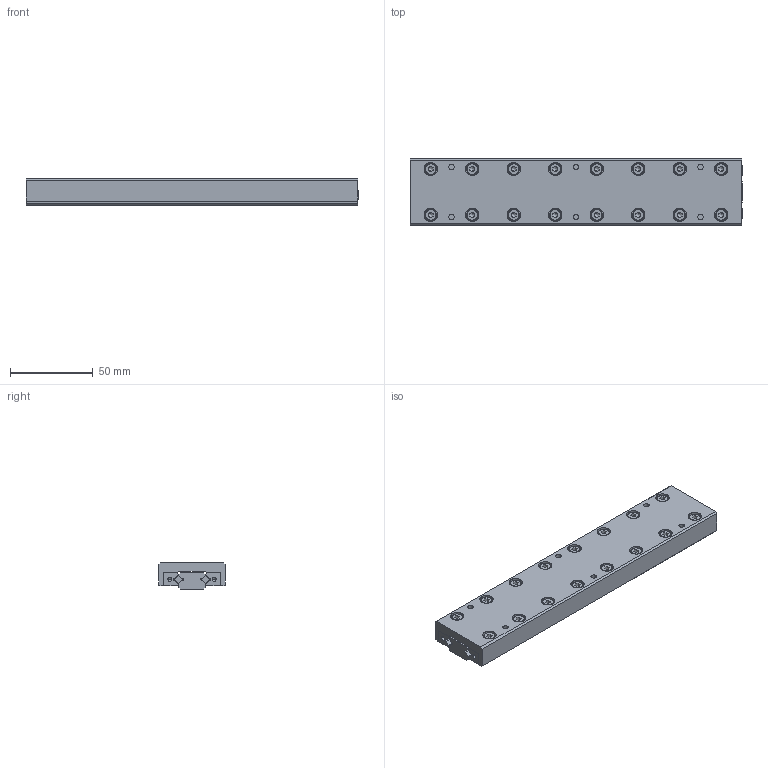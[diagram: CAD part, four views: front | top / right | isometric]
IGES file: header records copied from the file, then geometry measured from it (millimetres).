
Global section: file name: No Iges File Name specified; native system: AutoDesk Inventor R10; preprocessor: AutoDesk Inventor Iges Exporter R10; author: No Author specified; organization: No Organization specified; date: 20101224.112951; units: millimetre
Bounding box: 200 x 40 x 16 mm (x, y, z)
Surface area: 50417.9 mm2 (no closed solid volume)
Topology: 0 solids, 0 shells, 669 faces, 4104 edges, 4064 vertices
Faces by surface type: bspline 669
